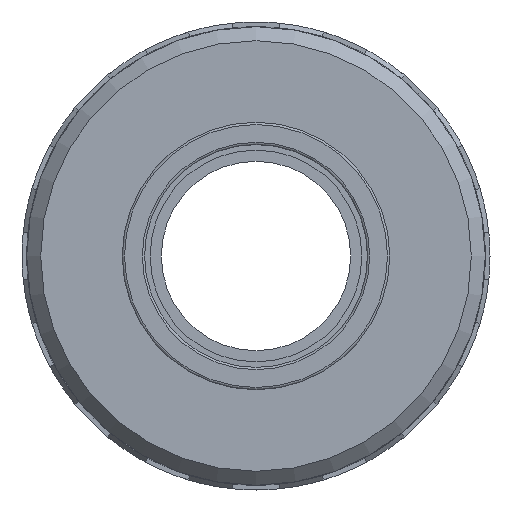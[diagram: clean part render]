
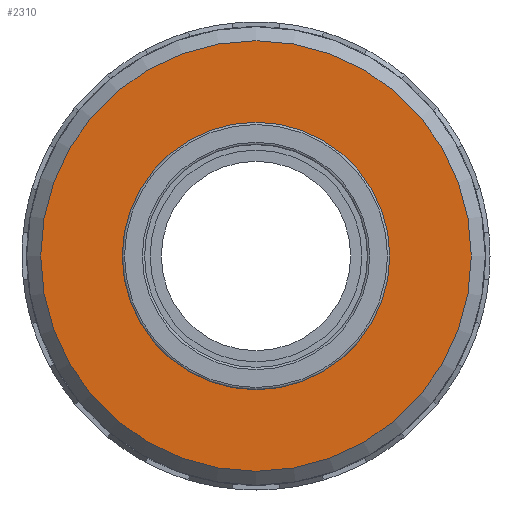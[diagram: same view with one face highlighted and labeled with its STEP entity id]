
A CAD part, left-side view. The second image highlights one B-rep face of the part: STEP entity #2310.
In plain terms, the highlighted planar face has unit normal (-1, 0, 0).
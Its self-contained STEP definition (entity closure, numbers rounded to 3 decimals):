
#62=FACE_BOUND('',#469,.T.);
#201=CIRCLE('',#2547,12.);
#204=CIRCLE('',#2554,19.32);
#328=FACE_OUTER_BOUND('',#468,.T.);
#468=EDGE_LOOP('',(#2104));
#469=EDGE_LOOP('',(#2105));
#1115=VERTEX_POINT('',#3927);
#1118=VERTEX_POINT('',#3939);
#1444=EDGE_CURVE('',#1115,#1115,#201,.T.);
#1449=EDGE_CURVE('',#1118,#1118,#204,.T.);
#2104=ORIENTED_EDGE('',*,*,#1449,.F.);
#2105=ORIENTED_EDGE('',*,*,#1444,.F.);
#2187=PLANE('',#2556);
#2310=ADVANCED_FACE('',(#328,#62),#2187,.T.);
#2547=AXIS2_PLACEMENT_3D('',#3928,#3232,#3233);
#2554=AXIS2_PLACEMENT_3D('',#3940,#3248,#3249);
#2556=AXIS2_PLACEMENT_3D('',#3942,#3252,#3253);
#3232=DIRECTION('center_axis',(-1.,0.,0.));
#3233=DIRECTION('ref_axis',(0.,0.,1.));
#3248=DIRECTION('center_axis',(1.,0.,0.));
#3249=DIRECTION('ref_axis',(0.,1.,0.));
#3252=DIRECTION('center_axis',(-1.,0.,0.));
#3253=DIRECTION('ref_axis',(0.,0.,1.));
#3927=CARTESIAN_POINT('',(-11.,-12.,0.));
#3928=CARTESIAN_POINT('Origin',(-11.,0.,0.));
#3939=CARTESIAN_POINT('',(-11.,-19.32,0.));
#3940=CARTESIAN_POINT('Origin',(-11.,0.,0.));
#3942=CARTESIAN_POINT('Origin',(-11.,-12.,0.));
